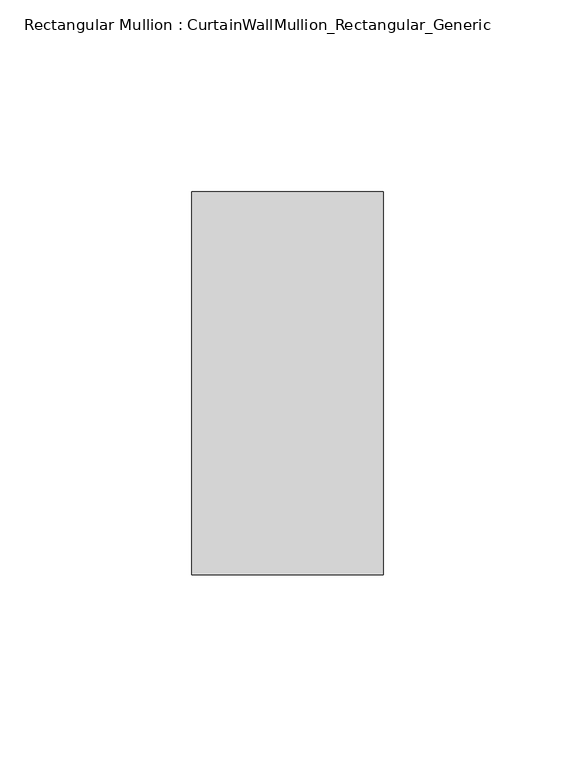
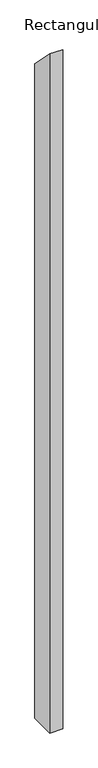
"""IFC4 building model written with IfcOpenShell, lengths in millimetres: member geometry, Rectangular Mullion : CurtainWallMullion_Rectangular_Generic."""

from ifc_helpers import new_model, si_unit, frame, origin, place, context, project, spatial, polyline, outline, extrude, source, transform, mapped, element, save


def rectangular_mullion_curtainwallmullion_rectangular_generic_0800385b(model_context):
    return source(origin(), model_context, "Body", "SweptSolid", [
        extrude(outline(polyline([(-50.0, 50.0), (50.0, -50.0), (50.0, -2739.6000002), (-50.0, -2739.6000002), (-50.0, 50.0)])), frame((-50.0, 0.0, 0.0), z_axis=(1.0, 0.0, 0.0), x_axis=(0.0, 1.0, 0.0)), (0.0, 0.0, 1.0), 50.0),
    ])


if __name__ == "__main__":
    model = new_model("IFC4")
    model_context = context("Model", 3, world=origin())
    ifc_project = project(units=[si_unit("LENGTHUNIT", "METRE", prefix="MILLI")], contexts=[model_context])
    site = spatial("IfcSite", under=ifc_project)
    building = spatial("IfcBuilding", under=site)
    placement = place(None, origin())
    rectangular_mullion_curtainwallmullion_rectangular_generic_shape = rectangular_mullion_curtainwallmullion_rectangular_generic_0800385b(model_context)
    element("IfcMember", 1, ObjectType="Rectangular Mullion : CurtainWallMullion_Rectangular_Generic", at=placement, inside=building, context=model_context, shape_type="MappedRepresentation", body=[
        mapped(rectangular_mullion_curtainwallmullion_rectangular_generic_shape, transform((0.0, 0.0, 0.0), x_axis=(1.0, 0.0, 0.0), y_axis=(0.0, 1.0, 0.0), z_axis=(0.0, 0.0, 1.0))),
    ])
    save(model, "model.ifc")
